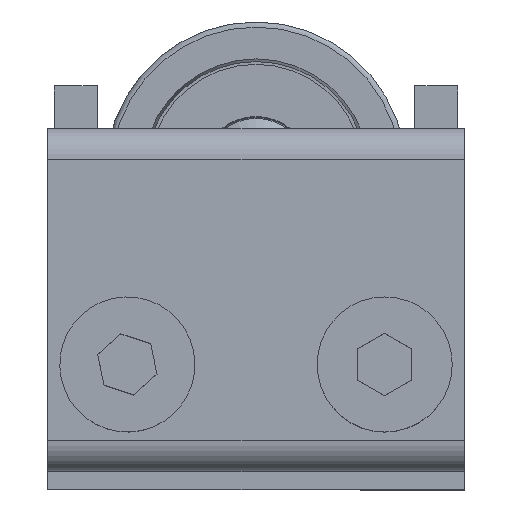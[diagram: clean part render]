
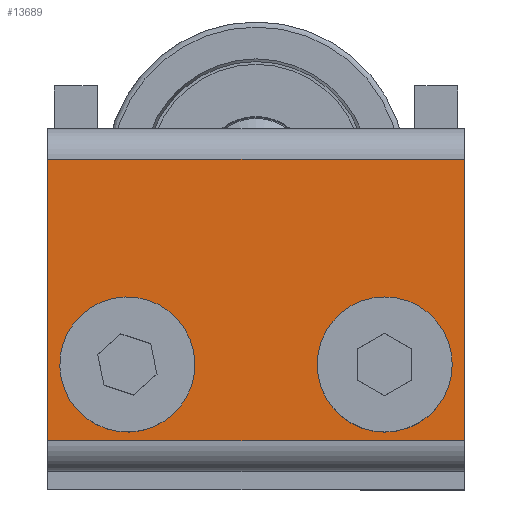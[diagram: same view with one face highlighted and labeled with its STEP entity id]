
A CAD part, top view. The second image highlights one B-rep face of the part: STEP entity #13689.
In plain terms, the highlighted planar face has unit normal (0, 0, 1) as drawn and (0, 0, -1) by its records, which use the part's own axes.
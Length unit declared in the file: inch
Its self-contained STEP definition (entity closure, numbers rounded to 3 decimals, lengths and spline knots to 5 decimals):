
#13415=DIRECTION('',(0.,-1.,0.));
#13416=VECTOR('',#13415,0.82);
#13417=CARTESIAN_POINT('',(0.6075,0.41,-0.18));
#13418=LINE('',#13417,#13416);
#13419=CARTESIAN_POINT('',(0.375,-0.188,-0.18));
#13420=DIRECTION('',(0.,0.,1.));
#13421=DIRECTION('',(1.,0.,0.));
#13422=AXIS2_PLACEMENT_3D('',#13419,#13420,#13421);
#13424=CARTESIAN_POINT('',(0.375,-0.188,-0.18));
#13425=DIRECTION('',(0.,0.,1.));
#13426=DIRECTION('',(-1.,0.,0.));
#13427=AXIS2_PLACEMENT_3D('',#13424,#13425,#13426);
#13429=CARTESIAN_POINT('',(-0.375,-0.188,-0.18));
#13430=DIRECTION('',(0.,0.,1.));
#13431=DIRECTION('',(1.,0.,0.));
#13432=AXIS2_PLACEMENT_3D('',#13429,#13430,#13431);
#13434=CARTESIAN_POINT('',(-0.375,-0.188,-0.18));
#13435=DIRECTION('',(0.,0.,1.));
#13436=DIRECTION('',(-1.,0.,0.));
#13437=AXIS2_PLACEMENT_3D('',#13434,#13435,#13436);
#13469=DIRECTION('',(0.,-1.,0.));
#13470=VECTOR('',#13469,0.82);
#13471=CARTESIAN_POINT('',(-0.6075,0.41,-0.18));
#13472=LINE('',#13471,#13470);
#13499=DIRECTION('',(-1.,0.,0.));
#13500=VECTOR('',#13499,1.215);
#13501=CARTESIAN_POINT('',(0.6075,0.41,-0.18));
#13502=LINE('',#13501,#13500);
#13583=DIRECTION('',(1.,0.,0.));
#13584=VECTOR('',#13583,1.215);
#13585=CARTESIAN_POINT('',(-0.6075,-0.41,-0.18));
#13586=LINE('',#13585,#13584);
#13592=CARTESIAN_POINT('',(0.5,-0.188,-0.18));
#13594=VERTEX_POINT('',#13592);
#13600=CARTESIAN_POINT('',(0.6075,-0.41,-0.18));
#13602=VERTEX_POINT('',#13600);
#13603=CARTESIAN_POINT('',(0.25,-0.188,-0.18));
#13604=VERTEX_POINT('',#13603);
#13619=CARTESIAN_POINT('',(0.6075,0.41,-0.18));
#13620=VERTEX_POINT('',#13619);
#13623=CARTESIAN_POINT('',(-0.6075,-0.41,-0.18));
#13625=VERTEX_POINT('',#13623);
#13627=CARTESIAN_POINT('',(-0.25,-0.188,-0.18));
#13628=VERTEX_POINT('',#13627);
#13639=CARTESIAN_POINT('',(-0.5,-0.188,-0.18));
#13640=VERTEX_POINT('',#13639);
#13643=CARTESIAN_POINT('',(-0.6075,0.41,-0.18));
#13644=VERTEX_POINT('',#13643);
#13663=CARTESIAN_POINT('',(0.6075,0.5,-0.18));
#13664=DIRECTION('',(0.,0.,1.));
#13665=DIRECTION('',(0.,-1.,0.));
#13666=AXIS2_PLACEMENT_3D('',#13663,#13664,#13665);
#13667=PLANE('',#13666);
#13669=ORIENTED_EDGE('',*,*,#13668,.F.);
#13671=ORIENTED_EDGE('',*,*,#13670,.T.);
#13673=ORIENTED_EDGE('',*,*,#13672,.T.);
#13675=ORIENTED_EDGE('',*,*,#13674,.T.);
#13676=EDGE_LOOP('',(#13669,#13671,#13673,#13675));
#13677=FACE_OUTER_BOUND('',#13676,.F.);
#13679=ORIENTED_EDGE('',*,*,#13678,.F.);
#13681=ORIENTED_EDGE('',*,*,#13680,.F.);
#13682=EDGE_LOOP('',(#13679,#13681));
#13683=FACE_BOUND('',#13682,.F.);
#13685=ORIENTED_EDGE('',*,*,#13684,.F.);
#13686=ORIENTED_EDGE('',*,*,#13652,.F.);
#13687=EDGE_LOOP('',(#13685,#13686));
#13688=FACE_BOUND('',#13687,.F.);
#13423=CIRCLE('',#13422,0.125);
#13428=CIRCLE('',#13427,0.125);
#13433=CIRCLE('',#13432,0.125);
#13438=CIRCLE('',#13437,0.125);
#13652=EDGE_CURVE('',#13640,#13628,#13438,.T.);
#13668=EDGE_CURVE('',#13620,#13602,#13418,.T.);
#13670=EDGE_CURVE('',#13620,#13644,#13502,.T.);
#13672=EDGE_CURVE('',#13644,#13625,#13472,.T.);
#13674=EDGE_CURVE('',#13625,#13602,#13586,.T.);
#13678=EDGE_CURVE('',#13594,#13604,#13423,.T.);
#13680=EDGE_CURVE('',#13604,#13594,#13428,.T.);
#13684=EDGE_CURVE('',#13628,#13640,#13433,.T.);
#13689=ADVANCED_FACE('',(#13677,#13683,#13688),#13667,.F.);
